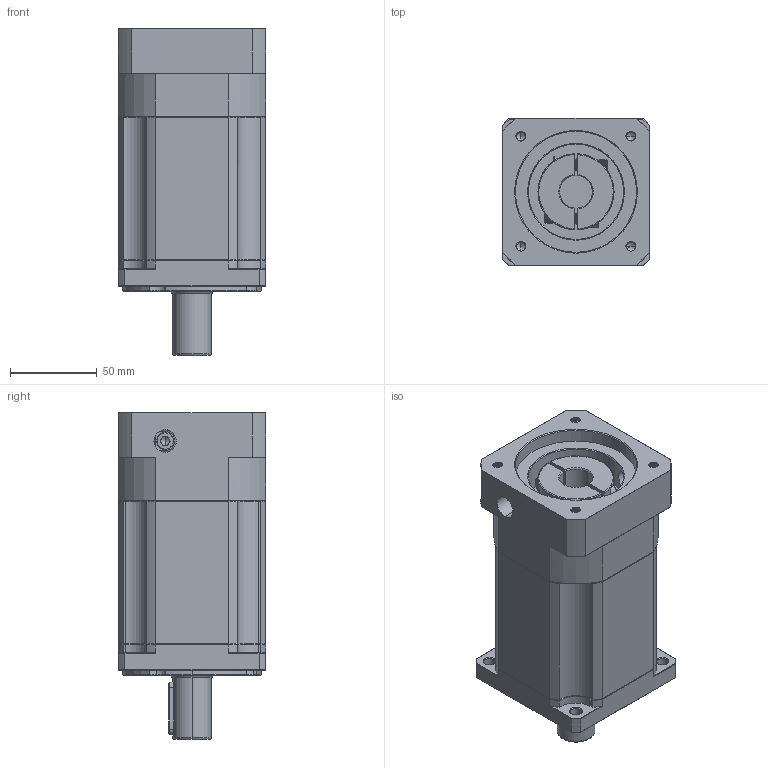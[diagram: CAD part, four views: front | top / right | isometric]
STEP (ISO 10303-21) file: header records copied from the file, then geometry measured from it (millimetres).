
FILE_DESCRIPTION (( 'STEP AP214' ), '1' );
FILE_NAME ('ZB090-D22-L3-P2-19-70-90-M6.step', '2023-08-18T12:15:45', ( '' ), ( '' ), 'SwSTEP 2.0', 'SolidWorks 2016', '' );
FILE_SCHEMA (( 'AUTOMOTIVE_DESIGN' ));
Length unit declared in the file: millimetre
Products named in the file (1): ZB090-D22-L3-P2-19-70-90-M6
Bounding box: 85 x 85 x 189 mm (x, y, z)
Volume: 915145.5 mm3; surface area: 99905.2 mm2
Topology: 4 solids, 4 shells, 2189 faces, 5845 edges, 3738 vertices
Faces by surface type: plane 1056, bspline 412, cylinder 390, cone 319, torus 12
Entity records: 119898 total; most frequent: CARTESIAN_POINT 44733, ORIENTED_EDGE 11646, DIRECTION 9008, EDGE_CURVE 5823, VERTEX_POINT 3738, VECTOR 3706, LINE 3706, AXIS2_PLACEMENT_3D 2651
